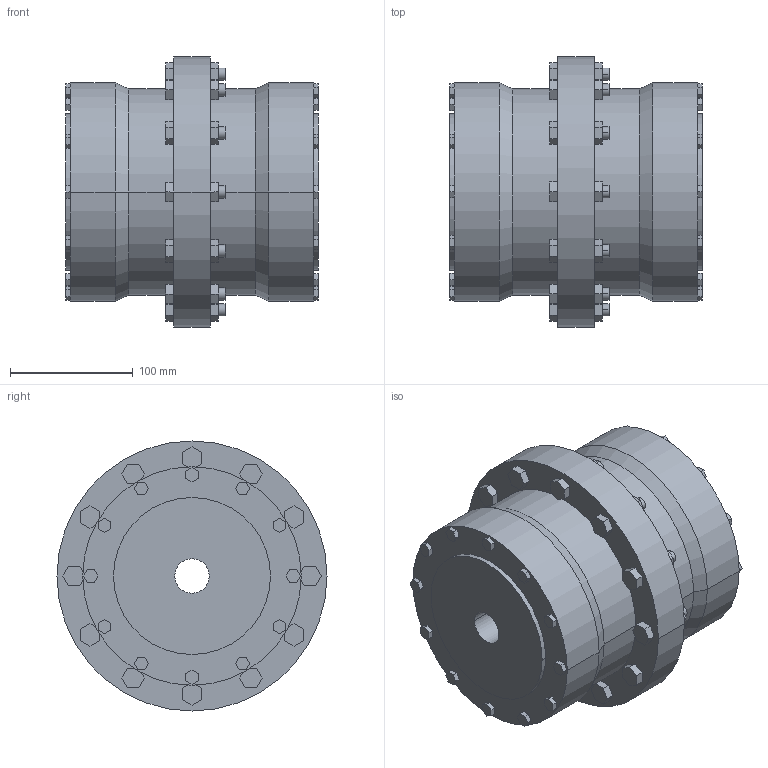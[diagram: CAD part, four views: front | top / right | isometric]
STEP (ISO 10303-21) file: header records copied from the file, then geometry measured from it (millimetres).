
FILE_DESCRIPTION((''),'2;1');
FILE_NAME('A18978100-0_ASM','2018-09-26T',('AB_Roschiwal'),('RENK AG'),'PRO/ENGINEER BY PARAMETRIC TECHNOLOGY CORPORATION, 2015440','PRO/ENGINEER BY PARAMETRIC TECHNOLOGY CORPORATION, 2015440','');
FILE_SCHEMA(('CONFIG_CONTROL_DESIGN'));
Length unit declared in the file: millimetre
Products named in the file (3): SBK80_GEHAEUSE; SBK80_NABE; A18978100-0_ASM
Assembly tree (3 placements, depth 2):
  A18978100-0_ASM
    SBK80_GEHAEUSE
    SBK80_NABE  x2
Bounding box: 206 x 220 x 220 mm (x, y, z)
Volume: 4462725.2 mm3; surface area: 457148.7 mm2
Topology: 3 solids, 3 shells, 422 faces, 1036 edges, 688 vertices
Faces by surface type: plane 362, cylinder 56, cone 4
Entity records: 12052 total; most frequent: CARTESIAN_POINT 2100, ORIENTED_EDGE 2024, DIRECTION 1940, EDGE_CURVE 1012, VECTOR 916, LINE 916, VERTEX_POINT 672, AXIS2_PLACEMENT_3D 512
